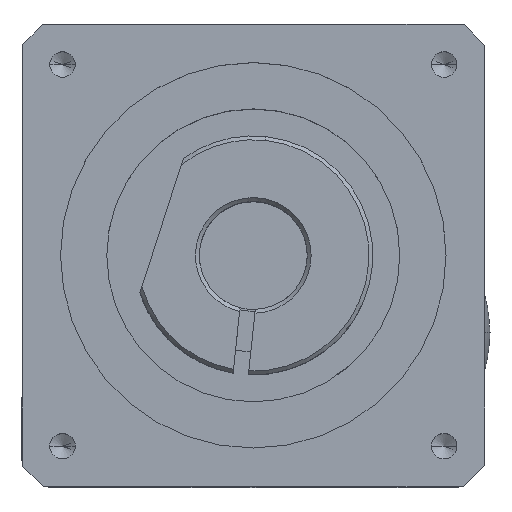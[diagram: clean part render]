
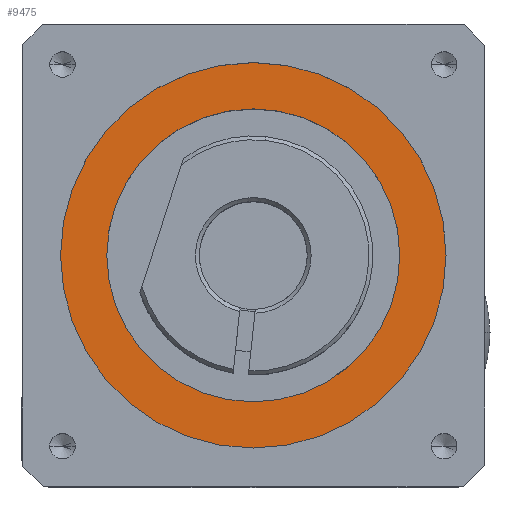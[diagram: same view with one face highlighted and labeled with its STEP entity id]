
A CAD part, top view. The second image highlights one B-rep face of the part: STEP entity #9475.
In plain terms, the highlighted planar face has unit normal (0, 0, 1).
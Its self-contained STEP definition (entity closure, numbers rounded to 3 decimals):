
#412 = VERTEX_POINT ( 'NONE', #6895 ) ;
#449 = DIRECTION ( 'NONE',  ( 0., 0., 1. ) ) ;
#722 = AXIS2_PLACEMENT_3D ( 'NONE', #5639, #8633, #1837 ) ;
#1010 = AXIS2_PLACEMENT_3D ( 'NONE', #8503, #12375, #3666 ) ;
#1121 = CIRCLE ( 'NONE', #722, 25. ) ;
#1171 = CIRCLE ( 'NONE', #9510, 19. ) ;
#1195 = DIRECTION ( 'NONE',  ( 1., 0., 0. ) ) ;
#1715 = CARTESIAN_POINT ( 'NONE',  ( -40.204, -3.534, 77. ) ) ;
#1732 = CARTESIAN_POINT ( 'NONE',  ( 3.796, -3.534, 77. ) ) ;
#1837 = DIRECTION ( 'NONE',  ( 1., 0., 0. ) ) ;
#2726 = CARTESIAN_POINT ( 'NONE',  ( -21.204, -3.534, 77. ) ) ;
#2788 = DIRECTION ( 'NONE',  ( 0., 0., 1. ) ) ;
#3448 = CIRCLE ( 'NONE', #1010, 19. ) ;
#3666 = DIRECTION ( 'NONE',  ( 1., 0., 0. ) ) ;
#3750 = ORIENTED_EDGE ( 'NONE', *, *, #8998, .F. ) ;
#4696 = DIRECTION ( 'NONE',  ( 0., 0., 1. ) ) ;
#5216 = EDGE_LOOP ( 'NONE', ( #3750, #9817 ) ) ;
#5289 = FACE_OUTER_BOUND ( 'NONE', #12236, .T. ) ;
#5639 = CARTESIAN_POINT ( 'NONE',  ( -21.204, -3.534, 77. ) ) ;
#5820 = DIRECTION ( 'NONE',  ( 1., 0., 0. ) ) ;
#6002 = EDGE_CURVE ( 'NONE', #412, #8205, #1121, .T. ) ;
#6729 = CARTESIAN_POINT ( 'NONE',  ( -21.204, -3.534, 77. ) ) ;
#6775 = ORIENTED_EDGE ( 'NONE', *, *, #6002, .T. ) ;
#6895 = CARTESIAN_POINT ( 'NONE',  ( -46.204, -3.534, 77. ) ) ;
#7216 = VERTEX_POINT ( 'NONE', #1715 ) ;
#7676 = EDGE_CURVE ( 'NONE', #8205, #412, #12550, .T. ) ;
#7857 = CARTESIAN_POINT ( 'NONE',  ( -2.204, -3.534, 77. ) ) ;
#8077 = CARTESIAN_POINT ( 'NONE',  ( -21.204, -3.534, 77. ) ) ;
#8205 = VERTEX_POINT ( 'NONE', #1732 ) ;
#8503 = CARTESIAN_POINT ( 'NONE',  ( -21.204, -3.534, 77. ) ) ;
#8633 = DIRECTION ( 'NONE',  ( 0., 0., 1. ) ) ;
#8998 = EDGE_CURVE ( 'NONE', #10103, #7216, #3448, .T. ) ;
#9025 = PLANE ( 'NONE',  #11996 ) ;
#9475 = ADVANCED_FACE ( 'NONE', ( #10037, #5289 ), #9025, .T. ) ;
#9510 = AXIS2_PLACEMENT_3D ( 'NONE', #6729, #4696, #5820 ) ;
#9817 = ORIENTED_EDGE ( 'NONE', *, *, #10091, .F. ) ;
#10037 = FACE_BOUND ( 'NONE', #5216, .T. ) ;
#10091 = EDGE_CURVE ( 'NONE', #7216, #10103, #1171, .T. ) ;
#10103 = VERTEX_POINT ( 'NONE', #7857 ) ;
#10412 = DIRECTION ( 'NONE',  ( 1., 0., 0. ) ) ;
#10907 = AXIS2_PLACEMENT_3D ( 'NONE', #2726, #2788, #10412 ) ;
#11996 = AXIS2_PLACEMENT_3D ( 'NONE', #8077, #449, #1195 ) ;
#12060 = ORIENTED_EDGE ( 'NONE', *, *, #7676, .T. ) ;
#12236 = EDGE_LOOP ( 'NONE', ( #12060, #6775 ) ) ;
#12375 = DIRECTION ( 'NONE',  ( 0., 0., 1. ) ) ;
#12550 = CIRCLE ( 'NONE', #10907, 25. ) ;
